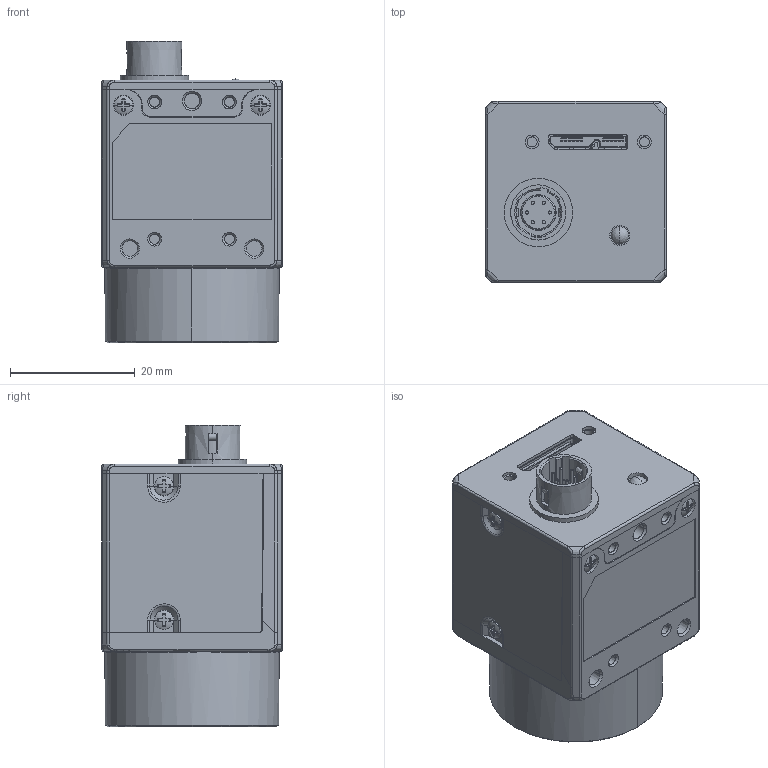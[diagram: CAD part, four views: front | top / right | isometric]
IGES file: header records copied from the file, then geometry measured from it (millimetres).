
Start section:  PTC IGES file: MV-CE060-10UMUC.igs
Global section: file name: MV-CE060-10UMUC.igs; native system: Creo Parametric by PTC Inc.; preprocessor: 2017260; author: wangyijun6; organization: Unknown; date: 20200311.142543; units: millimetre
Bounding box: 29.03 x 29 x 48.46 mm (x, y, z)
Volume: 26563.9 mm3; surface area: 11012.3 mm2
Topology: 1 solids, 13 shells, 1415 faces, 3738 edges, 2383 vertices
Faces by surface type: bspline 745, revolution 670
